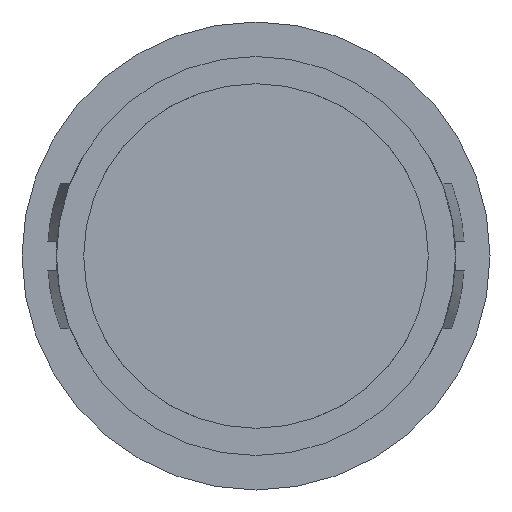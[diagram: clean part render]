
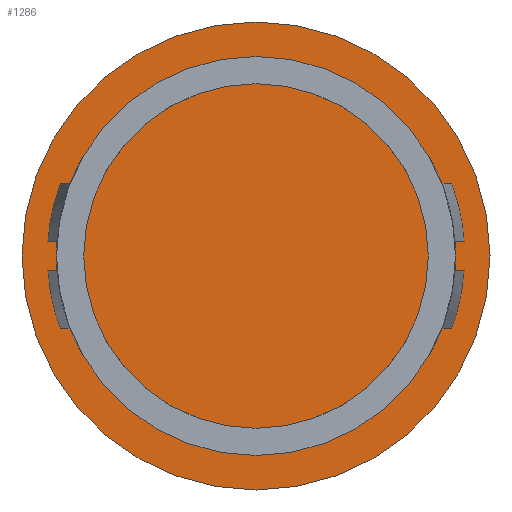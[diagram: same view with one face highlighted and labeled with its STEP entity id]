
A CAD part, front view. The second image highlights one B-rep face of the part: STEP entity #1286.
In plain terms, the highlighted planar face has unit normal (0, -1, 0).
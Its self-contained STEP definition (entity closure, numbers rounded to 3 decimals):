
#10 = VERTEX_POINT ( 'NONE', #1643 ) ;
#21 = EDGE_CURVE ( 'NONE', #1339, #1284, #1690, .T. ) ;
#35 = VERTEX_POINT ( 'NONE', #199 ) ;
#44 = VERTEX_POINT ( 'NONE', #239 ) ;
#64 = EDGE_CURVE ( 'NONE', #1489, #1339, #439, .T. ) ;
#80 = VERTEX_POINT ( 'NONE', #538 ) ;
#94 = VERTEX_POINT ( 'NONE', #684 ) ;
#95 = ORIENTED_EDGE ( 'NONE', *, *, #162, .F. ) ;
#105 = ORIENTED_EDGE ( 'NONE', *, *, #1263, .F. ) ;
#162 = EDGE_CURVE ( 'NONE', #94, #80, #778, .T. ) ;
#169 = LINE ( 'NONE', #170, #171 ) ;
#170 = CARTESIAN_POINT ( 'NONE',  ( -12.9, 9.9, -5.5 ) ) ;
#171 = VECTOR ( 'NONE', #172, 1000. ) ;
#172 = DIRECTION ( 'NONE',  ( 1., 0., 0. ) ) ;
#199 = CARTESIAN_POINT ( 'NONE',  ( -7.746, 9.9, -5.5 ) ) ;
#234 = CIRCLE ( 'NONE', #235, 9.5 ) ;
#235 = AXIS2_PLACEMENT_3D ( 'NONE', #236, #237, #238 ) ;
#236 = CARTESIAN_POINT ( 'NONE',  ( 0., 9.9, 0. ) ) ;
#237 = DIRECTION ( 'NONE',  ( 0., 1., 0. ) ) ;
#238 = DIRECTION ( 'NONE',  ( 0., 0., -1. ) ) ;
#239 = CARTESIAN_POINT ( 'NONE',  ( -9.526, 9.9, -5.5 ) ) ;
#287 = CARTESIAN_POINT ( 'NONE',  ( 9.526, 9.9, 5.5 ) ) ;
#288 = CARTESIAN_POINT ( 'NONE',  ( 7.746, 9.9, -5.5 ) ) ;
#294 = FACE_BOUND ( 'NONE', #1389, .T. ) ;
#295 = FACE_BOUND ( 'NONE', #1270, .T. ) ;
#296 = FACE_OUTER_BOUND ( 'NONE', #1571, .T. ) ;
#300 = PLANE ( 'NONE',  #301 ) ;
#301 = AXIS2_PLACEMENT_3D ( 'NONE', #302, #303, #304 ) ;
#302 = CARTESIAN_POINT ( 'NONE',  ( -12.9, 9.9, 0. ) ) ;
#303 = DIRECTION ( 'NONE',  ( 0., -1., 0. ) ) ;
#304 = DIRECTION ( 'NONE',  ( 0., 0., -1. ) ) ;
#373 = CIRCLE ( 'NONE', #374, 9.5 ) ;
#374 = AXIS2_PLACEMENT_3D ( 'NONE', #375, #376, #377 ) ;
#375 = CARTESIAN_POINT ( 'NONE',  ( 0., 9.9, 0. ) ) ;
#376 = DIRECTION ( 'NONE',  ( 0., 1., 0. ) ) ;
#377 = DIRECTION ( 'NONE',  ( 0., 0., -1. ) ) ;
#398 = CARTESIAN_POINT ( 'NONE',  ( 9.526, 9.9, -5.5 ) ) ;
#439 = CIRCLE ( 'NONE', #440, 9.5 ) ;
#440 = AXIS2_PLACEMENT_3D ( 'NONE', #441, #442, #443 ) ;
#441 = CARTESIAN_POINT ( 'NONE',  ( 0., 9.9, 0. ) ) ;
#442 = DIRECTION ( 'NONE',  ( 0., 1., 0. ) ) ;
#443 = DIRECTION ( 'NONE',  ( 0., 0., -1. ) ) ;
#461 = CARTESIAN_POINT ( 'NONE',  ( 0., 9.9, 9.5 ) ) ;
#491 = CIRCLE ( 'NONE', #492, 11. ) ;
#492 = AXIS2_PLACEMENT_3D ( 'NONE', #493, #494, #495 ) ;
#493 = CARTESIAN_POINT ( 'NONE',  ( 0., 9.9, 0. ) ) ;
#494 = DIRECTION ( 'NONE',  ( 0., 1., 0. ) ) ;
#495 = DIRECTION ( 'NONE',  ( 0., 0., 1. ) ) ;
#500 = CARTESIAN_POINT ( 'NONE',  ( 7.746, 9.9, 5.5 ) ) ;
#503 = VERTEX_POINT ( 'NONE', #974 ) ;
#515 = LINE ( 'NONE', #516, #517 ) ;
#516 = CARTESIAN_POINT ( 'NONE',  ( -12.9, 9.9, 5.5 ) ) ;
#517 = VECTOR ( 'NONE', #518, 1000. ) ;
#518 = DIRECTION ( 'NONE',  ( 1., 0., 0. ) ) ;
#525 = VERTEX_POINT ( 'NONE', #980 ) ;
#527 = VERTEX_POINT ( 'NONE', #991 ) ;
#538 = CARTESIAN_POINT ( 'NONE',  ( 0., 9.9, -12.9 ) ) ;
#659 = CIRCLE ( 'NONE', #660, 9.5 ) ;
#660 = AXIS2_PLACEMENT_3D ( 'NONE', #661, #662, #663 ) ;
#661 = CARTESIAN_POINT ( 'NONE',  ( 0., 9.9, 0. ) ) ;
#662 = DIRECTION ( 'NONE',  ( 0., 1., 0. ) ) ;
#663 = DIRECTION ( 'NONE',  ( 0., 0., -1. ) ) ;
#671 = EDGE_CURVE ( 'NONE', #44, #35, #1071, .T. ) ;
#684 = CARTESIAN_POINT ( 'NONE',  ( 0., 9.9, 12.9 ) ) ;
#708 = ORIENTED_EDGE ( 'NONE', *, *, #21, .F. ) ;
#724 = CIRCLE ( 'NONE', #725, 12.9 ) ;
#725 = AXIS2_PLACEMENT_3D ( 'NONE', #726, #727, #733 ) ;
#726 = CARTESIAN_POINT ( 'NONE',  ( 0., 9.9, 0. ) ) ;
#727 = DIRECTION ( 'NONE',  ( 0., 1., 0. ) ) ;
#728 = EDGE_CURVE ( 'NONE', #503, #527, #1095, .T. ) ;
#733 = DIRECTION ( 'NONE',  ( 0., 0., 1. ) ) ;
#750 = EDGE_CURVE ( 'NONE', #527, #1284, #1118, .T. ) ;
#778 = CIRCLE ( 'NONE', #779, 12.9 ) ;
#779 = AXIS2_PLACEMENT_3D ( 'NONE', #780, #781, #782 ) ;
#780 = CARTESIAN_POINT ( 'NONE',  ( 0., 9.9, 0. ) ) ;
#781 = DIRECTION ( 'NONE',  ( 0., 1., 0. ) ) ;
#782 = DIRECTION ( 'NONE',  ( 0., 0., 1. ) ) ;
#846 = ORIENTED_EDGE ( 'NONE', *, *, #728, .T. ) ;
#883 = VERTEX_POINT ( 'NONE', #1585 ) ;
#974 = CARTESIAN_POINT ( 'NONE',  ( -9.526, 9.9, 5.5 ) ) ;
#980 = CARTESIAN_POINT ( 'NONE',  ( 0., 9.9, -11. ) ) ;
#991 = CARTESIAN_POINT ( 'NONE',  ( 0., 9.9, 11. ) ) ;
#1061 = CIRCLE ( 'NONE', #1062, 11. ) ;
#1062 = AXIS2_PLACEMENT_3D ( 'NONE', #1063, #1069, #1070 ) ;
#1063 = CARTESIAN_POINT ( 'NONE',  ( 0., 9.9, 0. ) ) ;
#1069 = DIRECTION ( 'NONE',  ( 0., 1., 0. ) ) ;
#1070 = DIRECTION ( 'NONE',  ( 0., 0., 1. ) ) ;
#1071 = LINE ( 'NONE', #1072, #1073 ) ;
#1072 = CARTESIAN_POINT ( 'NONE',  ( -12.9, 9.9, -5.5 ) ) ;
#1073 = VECTOR ( 'NONE', #1074, 1000. ) ;
#1074 = DIRECTION ( 'NONE',  ( 1., 0., 0. ) ) ;
#1095 = CIRCLE ( 'NONE', #1096, 11. ) ;
#1096 = AXIS2_PLACEMENT_3D ( 'NONE', #1097, #1098, #1099 ) ;
#1097 = CARTESIAN_POINT ( 'NONE',  ( 0., 9.9, 0. ) ) ;
#1098 = DIRECTION ( 'NONE',  ( 0., 1., 0. ) ) ;
#1099 = DIRECTION ( 'NONE',  ( 0., 0., 1. ) ) ;
#1118 = CIRCLE ( 'NONE', #1119, 11. ) ;
#1119 = AXIS2_PLACEMENT_3D ( 'NONE', #1122, #1123, #1124 ) ;
#1122 = CARTESIAN_POINT ( 'NONE',  ( 0., 9.9, 0. ) ) ;
#1123 = DIRECTION ( 'NONE',  ( 0., 1., 0. ) ) ;
#1124 = DIRECTION ( 'NONE',  ( 0., 0., 1. ) ) ;
#1240 = EDGE_CURVE ( 'NONE', #1535, #1543, #169, .T. ) ;
#1246 = ORIENTED_EDGE ( 'NONE', *, *, #1374, .F. ) ;
#1249 = ORIENTED_EDGE ( 'NONE', *, *, #750, .T. ) ;
#1252 = ORIENTED_EDGE ( 'NONE', *, *, #1476, .T. ) ;
#1263 = EDGE_CURVE ( 'NONE', #883, #35, #234, .T. ) ;
#1270 = EDGE_LOOP ( 'NONE', ( #846, #1249, #708, #1414, #1246, #1348 ) ) ;
#1284 = VERTEX_POINT ( 'NONE', #287 ) ;
#1286 = ADVANCED_FACE ( 'NONE', ( #294, #295, #296 ), #300, .T. ) ;
#1302 = EDGE_CURVE ( 'NONE', #1535, #883, #373, .T. ) ;
#1328 = ORIENTED_EDGE ( 'NONE', *, *, #1557, .T. ) ;
#1339 = VERTEX_POINT ( 'NONE', #500 ) ;
#1348 = ORIENTED_EDGE ( 'NONE', *, *, #1497, .F. ) ;
#1374 = EDGE_CURVE ( 'NONE', #10, #1489, #659, .T. ) ;
#1389 = EDGE_LOOP ( 'NONE', ( #1328, #1252, #1455, #105, #1569, #1576 ) ) ;
#1393 = EDGE_CURVE ( 'NONE', #80, #94, #724, .T. ) ;
#1414 = ORIENTED_EDGE ( 'NONE', *, *, #64, .F. ) ;
#1455 = ORIENTED_EDGE ( 'NONE', *, *, #671, .T. ) ;
#1476 = EDGE_CURVE ( 'NONE', #525, #44, #1061, .T. ) ;
#1489 = VERTEX_POINT ( 'NONE', #461 ) ;
#1497 = EDGE_CURVE ( 'NONE', #503, #10, #515, .T. ) ;
#1520 = ORIENTED_EDGE ( 'NONE', *, *, #1393, .F. ) ;
#1535 = VERTEX_POINT ( 'NONE', #288 ) ;
#1543 = VERTEX_POINT ( 'NONE', #398 ) ;
#1557 = EDGE_CURVE ( 'NONE', #1543, #525, #491, .T. ) ;
#1569 = ORIENTED_EDGE ( 'NONE', *, *, #1302, .F. ) ;
#1571 = EDGE_LOOP ( 'NONE', ( #95, #1520 ) ) ;
#1576 = ORIENTED_EDGE ( 'NONE', *, *, #1240, .T. ) ;
#1585 = CARTESIAN_POINT ( 'NONE',  ( 0., 9.9, -9.5 ) ) ;
#1643 = CARTESIAN_POINT ( 'NONE',  ( -7.746, 9.9, 5.5 ) ) ;
#1690 = LINE ( 'NONE', #1691, #1692 ) ;
#1691 = CARTESIAN_POINT ( 'NONE',  ( -12.9, 9.9, 5.5 ) ) ;
#1692 = VECTOR ( 'NONE', #1693, 1000. ) ;
#1693 = DIRECTION ( 'NONE',  ( 1., 0., 0. ) ) ;
